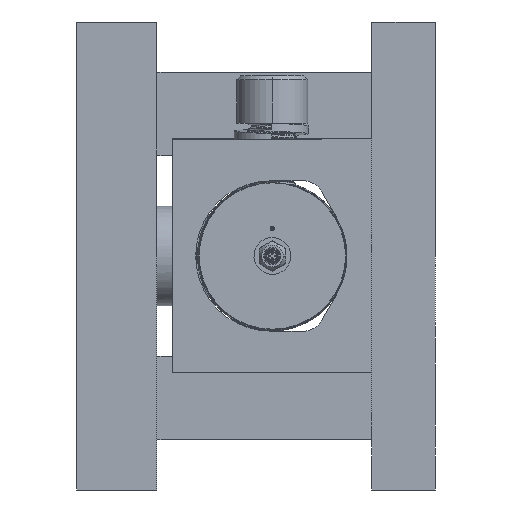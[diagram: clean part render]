
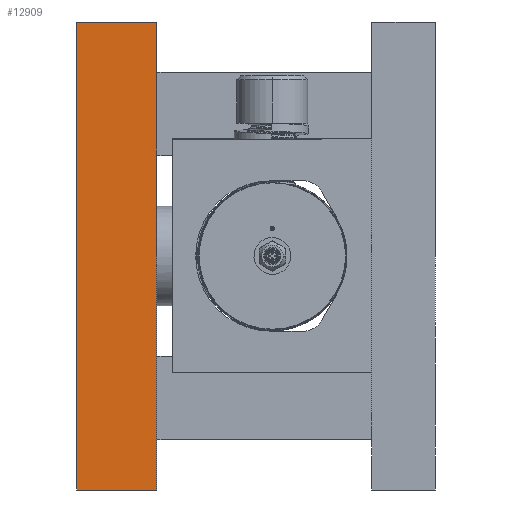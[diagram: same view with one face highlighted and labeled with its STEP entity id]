
A CAD part, left-side view. The second image highlights one B-rep face of the part: STEP entity #12909.
In plain terms, the highlighted planar face has unit normal (-1, 0, 0).
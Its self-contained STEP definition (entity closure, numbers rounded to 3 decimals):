
#599 = ORIENTED_EDGE ( 'NONE', *, *, #26092, .F. ) ;
#795 = VERTEX_POINT ( 'NONE', #24158 ) ;
#2520 = LINE ( 'NONE', #5712, #32998 ) ;
#2703 = LINE ( 'NONE', #36171, #14573 ) ;
#4283 = VERTEX_POINT ( 'NONE', #25345 ) ;
#4548 = VERTEX_POINT ( 'NONE', #35665 ) ;
#5712 = CARTESIAN_POINT ( 'NONE',  ( -177.8, 60.96, -177.8 ) ) ;
#6834 = ORIENTED_EDGE ( 'NONE', *, *, #33914, .T. ) ;
#7820 = DIRECTION ( 'NONE',  ( 0., -1., 0. ) ) ;
#9195 = CARTESIAN_POINT ( 'NONE',  ( -177.8, 60.96, -177.8 ) ) ;
#11026 = PLANE ( 'NONE',  #22042 ) ;
#12909 = ADVANCED_FACE ( 'NONE', ( #38310 ), #11026, .F. ) ;
#13051 = ORIENTED_EDGE ( 'NONE', *, *, #25101, .T. ) ;
#14573 = VECTOR ( 'NONE', #23626, 1000. ) ;
#20045 = VECTOR ( 'NONE', #7820, 1000. ) ;
#22042 = AXIS2_PLACEMENT_3D ( 'NONE', #9195, #24143, #24336 ) ;
#22639 = VERTEX_POINT ( 'NONE', #31349 ) ;
#22765 = LINE ( 'NONE', #32312, #20045 ) ;
#23626 = DIRECTION ( 'NONE',  ( 0., 0., 1. ) ) ;
#24143 = DIRECTION ( 'NONE',  ( 1., 0., 0. ) ) ;
#24158 = CARTESIAN_POINT ( 'NONE',  ( -177.8, 60.96, -177.8 ) ) ;
#24336 = DIRECTION ( 'NONE',  ( 0., 0., -1. ) ) ;
#25101 = EDGE_CURVE ( 'NONE', #795, #4283, #22765, .T. ) ;
#25345 = CARTESIAN_POINT ( 'NONE',  ( -177.8, 0., -177.8 ) ) ;
#25578 = ORIENTED_EDGE ( 'NONE', *, *, #26086, .F. ) ;
#26086 = EDGE_CURVE ( 'NONE', #22639, #4548, #38774, .T. ) ;
#26092 = EDGE_CURVE ( 'NONE', #795, #22639, #2520, .T. ) ;
#29329 = EDGE_LOOP ( 'NONE', ( #6834, #25578, #599, #13051 ) ) ;
#29823 = CARTESIAN_POINT ( 'NONE',  ( -177.8, 60.96, 177.8 ) ) ;
#31349 = CARTESIAN_POINT ( 'NONE',  ( -177.8, 60.96, 177.8 ) ) ;
#32312 = CARTESIAN_POINT ( 'NONE',  ( -177.8, 60.96, -177.8 ) ) ;
#32998 = VECTOR ( 'NONE', #35781, 1000. ) ;
#33914 = EDGE_CURVE ( 'NONE', #4283, #4548, #2703, .T. ) ;
#35665 = CARTESIAN_POINT ( 'NONE',  ( -177.8, 0., 177.8 ) ) ;
#35781 = DIRECTION ( 'NONE',  ( 0., 0., 1. ) ) ;
#35986 = DIRECTION ( 'NONE',  ( 0., -1., 0. ) ) ;
#36171 = CARTESIAN_POINT ( 'NONE',  ( -177.8, 0., -177.8 ) ) ;
#38091 = VECTOR ( 'NONE', #35986, 1000. ) ;
#38310 = FACE_OUTER_BOUND ( 'NONE', #29329, .T. ) ;
#38774 = LINE ( 'NONE', #29823, #38091 ) ;
